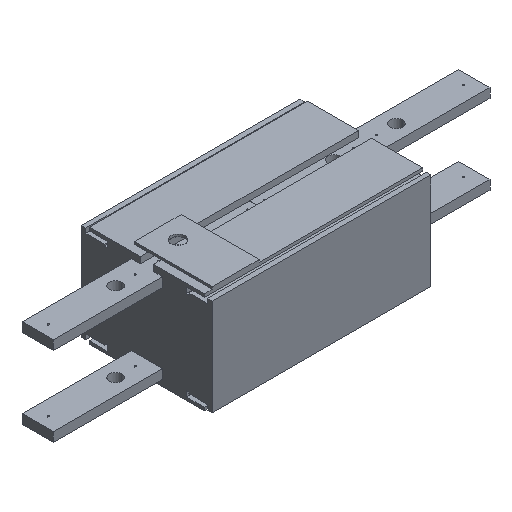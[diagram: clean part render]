
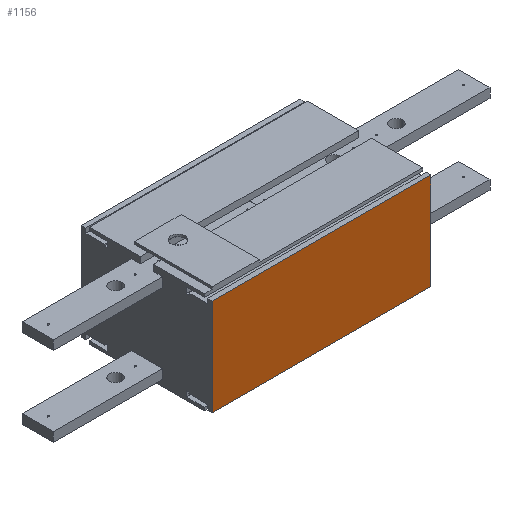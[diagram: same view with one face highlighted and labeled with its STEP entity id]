
A CAD part, isometric view. The second image highlights one B-rep face of the part: STEP entity #1156.
In plain terms, the highlighted planar face has unit normal (0, -1, 0).
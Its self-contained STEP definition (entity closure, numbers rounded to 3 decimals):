
#3 = CARTESIAN_POINT ( 'NONE',  ( 70., -42., 31. ) ) ;
#288 = EDGE_LOOP ( 'NONE', ( #2663, #3255, #2256, #3045 ) ) ;
#334 = EDGE_CURVE ( 'Edge12', #4287, #3826, #819, .T. ) ;
#719 = DIRECTION ( 'NONE',  ( 0., 0., -1. ) ) ;
#754 = EDGE_CURVE ( 'NONE', #3826, #1738, #2570, .T. ) ;
#813 = VECTOR ( 'NONE', #3874, 1000. ) ;
#819 = LINE ( 'NONE', #4387, #1755 ) ;
#1156 = ADVANCED_FACE ( 'NONE', ( #3579 ), #2250, .F. ) ;
#1167 = AXIS2_PLACEMENT_3D ( 'NONE', #4105, #1476, #4883 ) ;
#1170 = EDGE_CURVE ( 'NONE', #2816, #1738, #3518, .T. ) ;
#1312 = VECTOR ( 'NONE', #3889, 1000. ) ;
#1370 = CARTESIAN_POINT ( 'NONE',  ( 70., -42., -31. ) ) ;
#1476 = DIRECTION ( 'NONE',  ( 0., 1., 0. ) ) ;
#1738 = VERTEX_POINT ( 'NONE', #2283 ) ;
#1745 = VECTOR ( 'NONE', #719, 1000. ) ;
#1755 = VECTOR ( 'NONE', #3287, 1000. ) ;
#2250 = PLANE ( 'NONE',  #1167 ) ;
#2256 = ORIENTED_EDGE ( 'NONE', *, *, #754, .F. ) ;
#2283 = CARTESIAN_POINT ( 'NONE',  ( -70., -42., -31. ) ) ;
#2570 = LINE ( 'NONE', #4680, #813 ) ;
#2595 = CARTESIAN_POINT ( 'NONE',  ( -70., -42., 31. ) ) ;
#2663 = ORIENTED_EDGE ( 'NONE', *, *, #4784, .T. ) ;
#2816 = VERTEX_POINT ( 'NONE', #2595 ) ;
#3045 = ORIENTED_EDGE ( 'NONE', *, *, #334, .F. ) ;
#3255 = ORIENTED_EDGE ( 'NONE', *, *, #1170, .T. ) ;
#3287 = DIRECTION ( 'NONE',  ( 0., 0., -1. ) ) ;
#3518 = LINE ( 'NONE', #4504, #1745 ) ;
#3579 = FACE_OUTER_BOUND ( 'NONE', #288, .T. ) ;
#3826 = VERTEX_POINT ( 'NONE', #1370 ) ;
#3874 = DIRECTION ( 'NONE',  ( -1., 0., 0. ) ) ;
#3889 = DIRECTION ( 'NONE',  ( -1., 0., 0. ) ) ;
#4105 = CARTESIAN_POINT ( 'NONE',  ( 70., -42., -31. ) ) ;
#4224 = LINE ( 'NONE', #4658, #1312 ) ;
#4287 = VERTEX_POINT ( 'NONE', #3 ) ;
#4387 = CARTESIAN_POINT ( 'NONE',  ( 70., -42., -31. ) ) ;
#4504 = CARTESIAN_POINT ( 'NONE',  ( -70., -42., -31. ) ) ;
#4658 = CARTESIAN_POINT ( 'NONE',  ( 70., -42., 31. ) ) ;
#4680 = CARTESIAN_POINT ( 'NONE',  ( 70., -42., -31. ) ) ;
#4784 = EDGE_CURVE ( 'NONE', #4287, #2816, #4224, .T. ) ;
#4883 = DIRECTION ( 'NONE',  ( 0., 0., 1. ) ) ;
